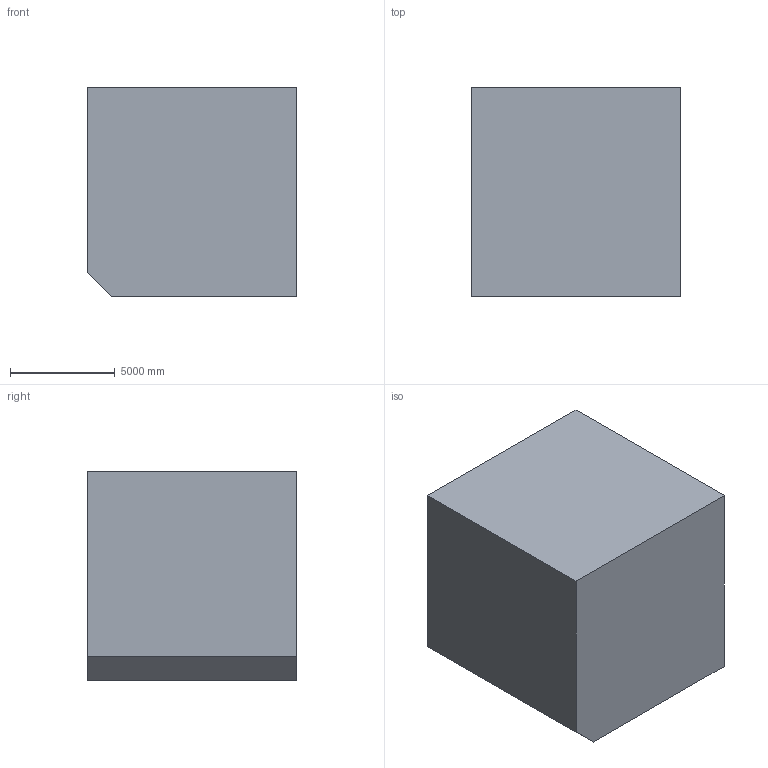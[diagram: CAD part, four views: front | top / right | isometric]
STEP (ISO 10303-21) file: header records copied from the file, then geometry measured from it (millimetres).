
FILE_DESCRIPTION (( 'STEP AP203' ), '1' );
FILE_NAME ('1170.STEP', '2022-08-18T13:02:07', ( 'user' ), ( '' ), 'SwSTEP 2.0', 'SolidWorks 2021', '' );
FILE_SCHEMA (( 'CONFIG_CONTROL_DESIGN' ));
Length unit declared in the file: centimetre
Products named in the file (1): 1170
Bounding box: 10000 x 10000 x 10000 mm (x, y, z)
Volume: 919642836252.8 mm3; surface area: 710045430.4 mm2
Topology: 1 solids, 1 shells, 13 faces, 27 edges, 18 vertices
Faces by surface type: plane 9, cylinder 4
Entity records: 426 total; most frequent: DIRECTION 63, CARTESIAN_POINT 59, ORIENTED_EDGE 54, EDGE_CURVE 27, AXIS2_PLACEMENT_3D 22, LINE 19, VECTOR 19, VERTEX_POINT 18
